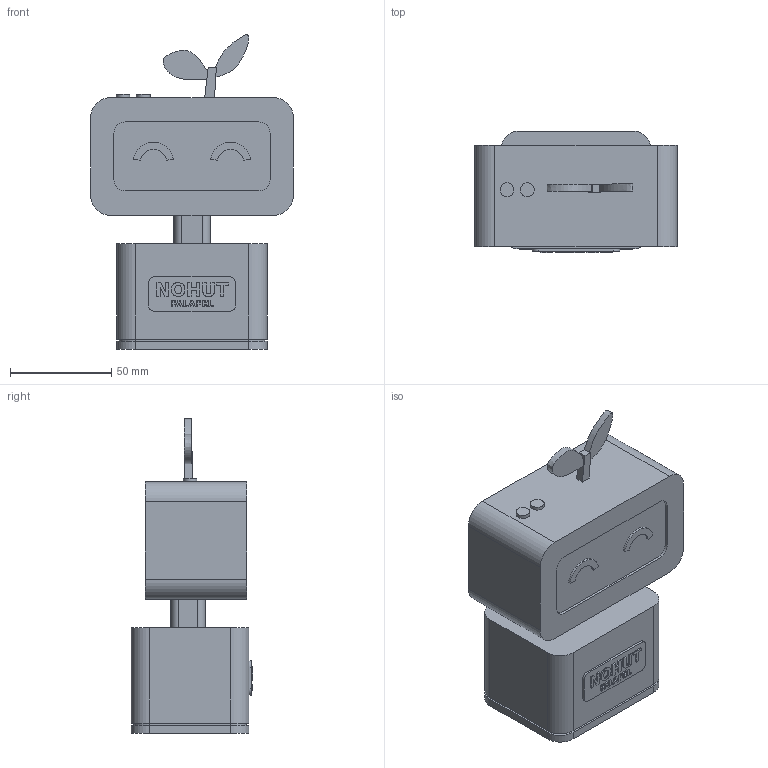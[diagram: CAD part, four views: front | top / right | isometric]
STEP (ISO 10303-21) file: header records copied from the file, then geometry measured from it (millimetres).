
FILE_DESCRIPTION(('Open CASCADE Model'),'2;1');
FILE_NAME('Open CASCADE Shape Model','2026-10-25T23:18:49',('Author'),( 'Open CASCADE'),'Open CASCADE STEP processor 7.9','Open CASCADE 7.9' ,'Unknown');
FILE_SCHEMA(('AUTOMOTIVE_DESIGN { 1 0 10303 214 1 1 1 1 }'));
Length unit declared in the file: millimetre
Products named in the file (1): Open CASCADE STEP translator 7.9 1
Bounding box: 100 x 59.9 x 155 mm (x, y, z)
Volume: 509028.9 mm3; surface area: 50851 mm2
Topology: 1 solids, 1 shells, 332 faces, 912 edges, 608 vertices
Faces by surface type: plane 276, cylinder 30, extrusion 26
Full cylindrical faces by diameter (mm): 6.8 x2
Entity records: 23278 total; most frequent: CARTESIAN_POINT 5607, DIRECTION 2998, VECTOR 2222, LINE 2196, ORIENTED_EDGE 1824, PCURVE 1824, DEFINITIONAL_REPRESENTATION 1824, EDGE_CURVE 912
